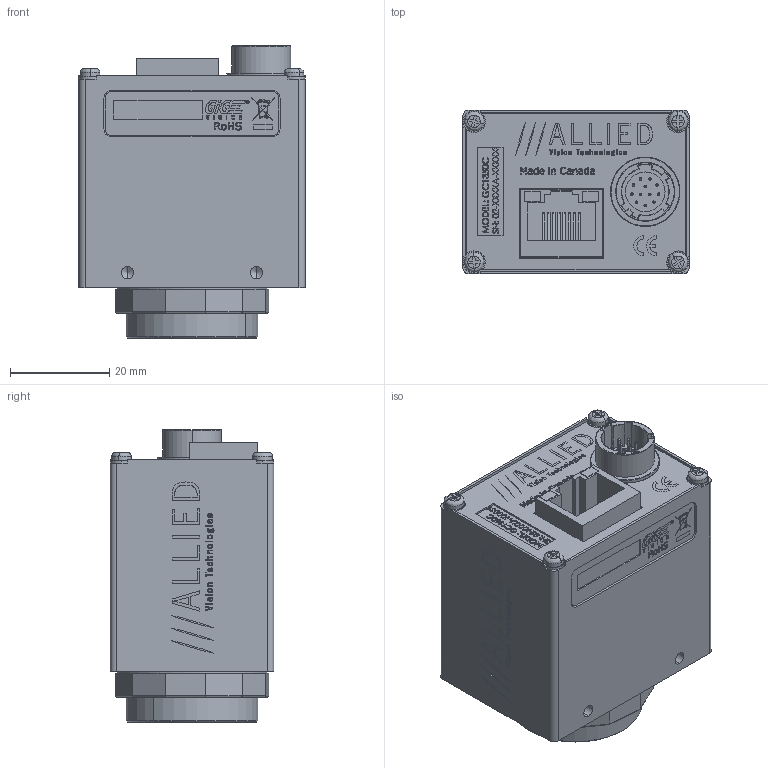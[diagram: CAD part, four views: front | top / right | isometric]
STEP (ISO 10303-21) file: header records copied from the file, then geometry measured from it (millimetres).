
FILE_DESCRIPTION (( 'STEP AP214' ), '1' );
FILE_NAME ('GC1350C.STEP', '2013-07-31T18:59:11', ( '' ), ( '' ), 'SwSTEP 2.0', 'SolidWorks 2013', '' );
FILE_SCHEMA (( 'AUTOMOTIVE_DESIGN' ));
Length unit declared in the file: millimetre
Products named in the file (22): 110031A-B EC-CCD LOCKING RING; GC1350C; 100097A-IR FILTER ASSEMBLY 0.75 INCH; 110054AB-IR FILTER SUPPORT; 440002-IR CUT FILTER 22MM DIA; 110043A GC BACK PLATE; 110043A GC BACK PLATE - WO HW; 740036A-A GC1350C LABEL PRINT; 110042C GC-CCD FRONT_Finished with logo; 110003AC-CV CMOUNT RING; 740123A-GC MAC LABEL; 110045B-EC-CCD DUST SHIELD GASKET; 140017-SCREW PAN M2x4 SS; 220051-SONY ICX205AK; Sony ICX205 BODY; Sony ICX205 WINDOW; 140023-SCREW SKT CAP M2x10 SS; 740032B-GC MAIN LABEL; 260034-HIROSE HR10A-10R-12PB; 200047A-A GC INTERFACE PCB ASSY; 140013-washer spring lock M2; 260033-AMPHENOL RJHS-3381
Assembly tree (30 placements, depth 3):
  GC1350C
    140013-washer spring lock M2  x6
    260034-HIROSE HR10A-10R-12PB
    740032B-GC MAIN LABEL
    140023-SCREW SKT CAP M2x10 SS  x2
    220051-SONY ICX205AK
      Sony ICX205 WINDOW
      Sony ICX205 BODY
    140017-SCREW PAN M2x4 SS  x4
    110045B-EC-CCD DUST SHIELD GASKET
    740123A-GC MAC LABEL
    110003AC-CV CMOUNT RING
    110042C GC-CCD FRONT_Finished with logo
    740036A-A GC1350C LABEL PRINT
    110043A GC BACK PLATE
      110043A GC BACK PLATE - WO HW
    100097A-IR FILTER ASSEMBLY 0.75 INCH
      440002-IR CUT FILTER 22MM DIA
      110054AB-IR FILTER SUPPORT
    110031A-B EC-CCD LOCKING RING
    200047A-A GC INTERFACE PCB ASSY
      260033-AMPHENOL RJHS-3381
Bounding box: 45.72 x 33.02 x 58.96 mm (x, y, z)
Volume: 23215.5 mm3; surface area: 33864.6 mm2
Topology: 26 solids, 26 shells, 3271 faces, 8598 edges, 5590 vertices
Faces by surface type: plane 1872, bspline 901, cylinder 304, cone 194
Entity records: 163266 total; most frequent: CARTESIAN_POINT 56311, ORIENTED_EDGE 16372, DIRECTION 11722, EDGE_CURVE 8186, VECTOR 5654, LINE 5654, VERTEX_POINT 5372, EDGE_LOOP 3466
